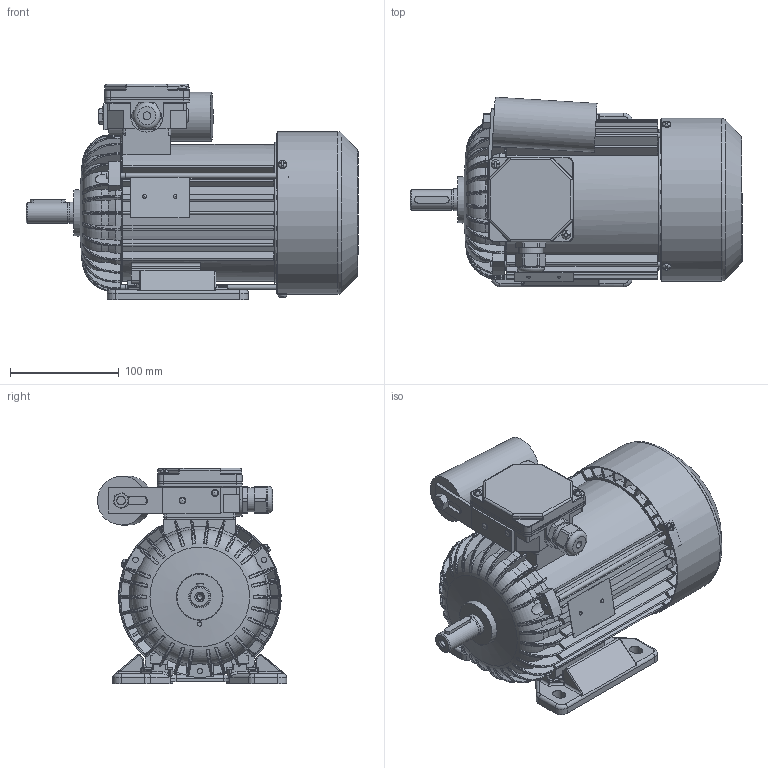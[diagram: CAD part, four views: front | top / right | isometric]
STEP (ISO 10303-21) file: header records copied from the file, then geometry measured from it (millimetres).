
FILE_DESCRIPTION(/* description */ ('Unknown'),/* implementation_level */ '2;1');
FILE_NAME(/* name */ '3SSIE80-4B',/* time_stamp */ '2024-06-18T09:19:19+02:00',/* author */ ('Unknown'),/* organization */ ('Unknown'),/* preprocessor_version */ 'ST-DEVELOPER v16.7',/* originating_system */ 'Solid Edge',/* authorisation */ 'Unknown');
FILE_SCHEMA (('TECHNICAL_DATA_PACKAGING','AUTOMOTIVE_DESIGN {1 0 10303 214 3 1 1}'));
Length unit declared in the file: millimetre
Products named in the file (1): Czêœæ12
Bounding box: 305.79 x 174.3 x 198.5 mm (x, y, z)
Volume: 1167326.4 mm3; surface area: 585518.4 mm2
Topology: 4 solids, 4 shells, 2954 faces, 8312 edges, 5350 vertices
Faces by surface type: plane 1398, cylinder 954, torus 210, bspline 204, cone 166, sphere 22
Full cylindrical faces by diameter (mm): 2 x2, 2.4 x2, 3 x2, 3.7 x8, 4 x6, 4.3 x2, 4.5 x3, 4.6 x3, 4.8 x2, 4.917 x2, 5 x8, 5.5 x3, 6 x2, 6.399 x1, 6.5 x5, 7 x1, 8 x10, 18.598 x1, 18.998 x1, 19.298 x1, 19.498 x1, 19.898 x1, 19.948 x1, 19.998 x2, 20.4 x2, 22.3 x1, 25 x1, 25.497 x1, 25.647 x1, 25.997 x3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
Entity records: 120543 total; most frequent: CARTESIAN_POINT 28154, ORIENTED_EDGE 15796, DIRECTION 14550, EDGE_CURVE 7898, AXIS2_PLACEMENT_3D 5340, VERTEX_POINT 5215, LINE 3870, VECTOR 3870
